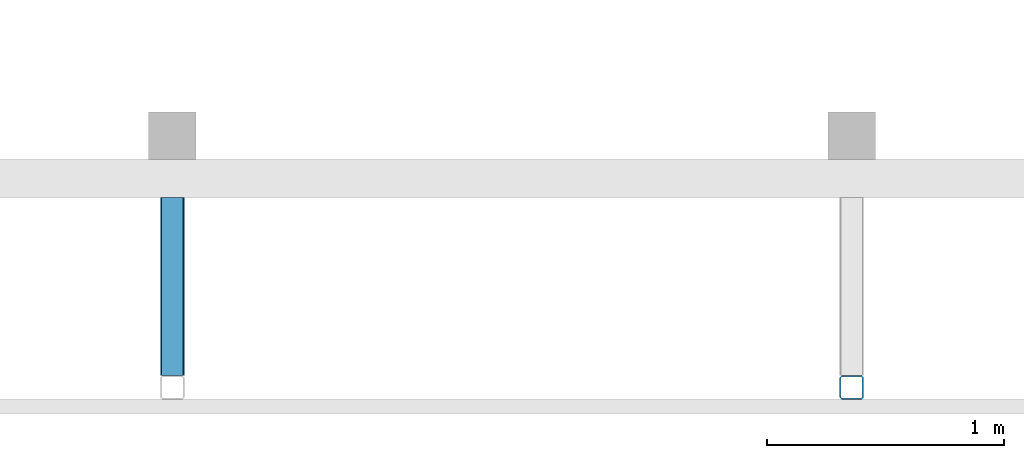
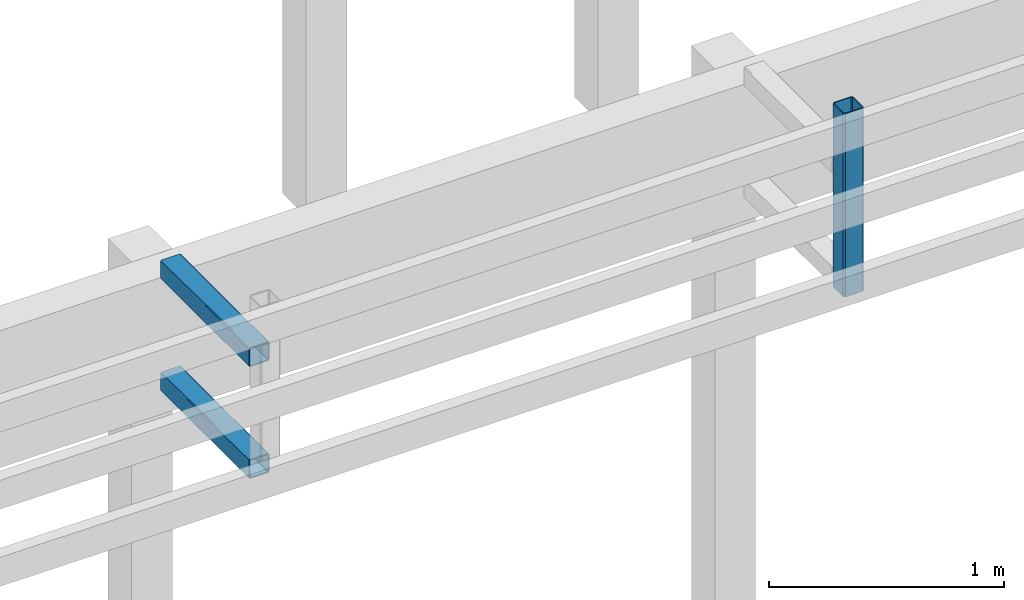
# One storey, part 24 of 42: 3 members.
"""IFC4 building model written with IfcOpenShell, lengths in metres."""

from ifc_helpers import new_model, entity, si_unit, converted_unit, derived_unit, frame, origin, place, context, subcontext, project, spatial, faceted_brep, material, element, save


model = new_model("IFC4")

# Units and contexts
model_context = context("Model", 3, precision=1e-05, world=origin())
plan_context = context("Plan", 2, precision=1e-05, world=origin())
body_context = subcontext(model_context, "Body", "Model", "MODEL_VIEW")
ifc_project = project(units=[si_unit("LENGTHUNIT", "METRE"), si_unit("AREAUNIT", "SQUARE_METRE"), si_unit("VOLUMEUNIT", "CUBIC_METRE"), si_unit("MASSUNIT", "GRAM", prefix="KILO"), converted_unit("PLANEANGLEUNIT", "DEGREE", entity("IfcPlaneAngleMeasure", 0.0174532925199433), si_unit("PLANEANGLEUNIT", "RADIAN"), dimensions=[0, 0, 0, 0, 0, 0, 0]), derived_unit("THERMALTRANSMITTANCEUNIT", [(si_unit("POWERUNIT", "WATT"), 1), (si_unit("THERMODYNAMICTEMPERATUREUNIT", "KELVIN"), -1), (si_unit("LENGTHUNIT", "METRE"), -2)]), derived_unit("VOLUMETRICFLOWRATEUNIT", [(si_unit("LENGTHUNIT", "METRE"), 3), (converted_unit("TIMEUNIT", "hour", entity("IfcTimeMeasure", 3600.0), si_unit("TIMEUNIT", "SECOND"), dimensions=[0, 0, 1, 0, 0, 0, 0]), -1), (si_unit("LENGTHUNIT", "METRE"), -1)])], contexts=[model_context, plan_context])

# Site, building, storey
site_placement = place(None, origin())
site = spatial("IfcSite", under=ifc_project, at=site_placement, Name="Site", CompositionType="ELEMENT")
building_placement = place(site_placement, origin())
building = spatial("IfcBuilding", under=site, at=building_placement, Name="Admin", CompositionType="ELEMENT")
storey_placement = place(building_placement, frame((0.0, 0.0, 6.61)))
storey = spatial("IfcBuildingStorey", under=building, at=storey_placement, Name="02-Etage2", CompositionType="ELEMENT", Elevation=6.61)

# Members
ifc_material_1 = material(Name="S235")
member_1_placement = place(storey_placement, frame((49.6398010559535, 11.0194493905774, 2.28)))
element("IfcMember", 1, at=member_1_placement, inside=storey, material=ifc_material_1, Name="Bandeau R+2", context=body_context, shape_type="Brep", body=[
    faceted_brep([(0.01, 0.095, 0.0), (0.01, 0.095, 0.95), (0.09, 0.095, 0.95), (0.09, 0.095, 0.0), (0.005, 0.09, 0.0), (0.005, 0.09, 0.95), (0.005, 0.01, 0.0), (0.005, 0.01, 0.95), (0.01, 0.005, 0.0), (0.01, 0.005, 0.95), (0.09, 0.005, 0.0), (0.09, 0.005, 0.95), (0.095, 0.01, 0.0), (0.095, 0.01, 0.95), (0.095, 0.09, 0.0), (0.095, 0.09, 0.95), (0.1, 0.0925, 0.0), (0.1, 0.0925, 0.95), (0.0925, 0.1, 0.95), (0.0925, 0.1, 0.0), (0.1, 0.0075, 0.0), (0.1, 0.0075, 0.95), (0.0925, 0.0, 0.0), (0.0925, 0.0, 0.95), (0.0075, 0.0, 0.0), (0.0075, 0.0, 0.95), (0.0, 0.0075, 0.0), (0.0, 0.0075, 0.95), (0.0, 0.0925, 0.0), (0.0, 0.0925, 0.95), (0.0075, 0.1, 0.0), (0.0075, 0.1, 0.95)], [[[0, 1, 2, 3]], [[4, 5, 1, 0]], [[6, 7, 5, 4]], [[8, 9, 7, 6]], [[10, 11, 9, 8]], [[12, 13, 11, 10]], [[14, 15, 13, 12]], [[3, 2, 15, 14]], [[16, 17, 18, 19]], [[20, 21, 17, 16]], [[22, 23, 21, 20]], [[24, 25, 23, 22]], [[26, 27, 25, 24]], [[28, 29, 27, 26]], [[30, 31, 29, 28]], [[19, 18, 31, 30]], [[18, 17, 21, 23, 25, 27, 29, 31], [2, 1, 5, 7, 9, 11, 13, 15]], [[19, 30, 28, 26, 24, 22, 20, 16], [3, 14, 12, 10, 8, 6, 4, 0]]], orient=[[False], [False], [False], [False], [False], [False], [False], [False], [False], [False], [False], [False], [False], [False], [False], [False], [False, False], [False, False]]),
])
ifc_material_2 = material(Name="S235")
member_2_placement = place(storey_placement, frame((46.7798010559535, 11.1194493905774, 2.86)))
element("IfcMember", 2, at=member_2_placement, inside=storey, material=ifc_material_2, Name="Bandeau R+2", context=body_context, shape_type="Brep", body=[
    faceted_brep([(0.0950000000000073, 0.0, 0.09), (0.0950000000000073, 0.0, 0.01), (0.0950000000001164, 0.74999999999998, 0.01), (0.0950000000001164, 0.74999999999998, 0.09), (0.0949240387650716, 0.0, 0.0908682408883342), (0.0949240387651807, 0.74999999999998, 0.0908682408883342), (0.0946984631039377, 0.0, 0.0917101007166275), (0.0946984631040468, 0.74999999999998, 0.0917101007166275), (0.0943301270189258, 0.0, 0.0925), (0.094330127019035, 0.74999999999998, 0.0925), (0.0938302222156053, 0.0, 0.0932139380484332), (0.0938302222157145, 0.74999999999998, 0.0932139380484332), (0.0932139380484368, 1.81898940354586e-15, 0.0938302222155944), (0.093213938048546, 0.749999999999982, 0.0938302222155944), (0.0925000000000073, 1.81898940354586e-15, 0.0943301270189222), (0.0925000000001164, 0.749999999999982, 0.0943301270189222), (0.0917101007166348, 1.81898940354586e-15, 0.0946984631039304), (0.0917101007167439, 0.749999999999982, 0.0946984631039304), (0.0908682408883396, 1.81898940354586e-15, 0.0949240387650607), (0.0908682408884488, 0.749999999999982, 0.0949240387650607), (0.0900000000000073, 1.81898940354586e-15, 0.095), (0.0900000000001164, 0.749999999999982, 0.095), (0.0100000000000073, 1.2732925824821e-14, 0.095), (0.0100000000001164, 0.749999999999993, 0.095), (0.00913175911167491, 1.2732925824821e-14, 0.0949240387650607), (0.00913175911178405, 0.749999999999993, 0.0949240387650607), (0.00828989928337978, 1.2732925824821e-14, 0.0946984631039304), (0.00828989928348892, 0.749999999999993, 0.0946984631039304), (0.00750000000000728, 1.2732925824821e-14, 0.0943301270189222), (0.00750000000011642, 0.749999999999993, 0.0943301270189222), (0.00678606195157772, 1.2732925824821e-14, 0.0938302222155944), (0.00678606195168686, 0.749999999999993, 0.0938302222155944), (0.00616977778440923, 1.45519152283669e-14, 0.0932139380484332), (0.00616977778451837, 0.749999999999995, 0.0932139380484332), (0.0056698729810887, 1.45519152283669e-14, 0.0925), (0.00566987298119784, 0.749999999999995, 0.0925), (0.00530153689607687, 1.45519152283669e-14, 0.0917101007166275), (0.00530153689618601, 0.749999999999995, 0.0917101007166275), (0.00507596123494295, 1.45519152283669e-14, 0.0908682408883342), (0.00507596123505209, 0.749999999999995, 0.0908682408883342), (0.00500000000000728, 1.45519152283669e-14, 0.09), (0.00500000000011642, 0.749999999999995, 0.09), (0.00500000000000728, 1.45519152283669e-14, 0.01), (0.00500000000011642, 0.749999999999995, 0.01), (0.00507596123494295, 1.45519152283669e-14, 0.00913175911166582), (0.00507596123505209, 0.749999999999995, 0.00913175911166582), (0.00530153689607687, 1.45519152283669e-14, 0.00828989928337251), (0.00530153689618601, 0.749999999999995, 0.00828989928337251), (0.0056698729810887, 1.45519152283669e-14, 0.0075), (0.00566987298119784, 0.749999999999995, 0.0075), (0.00616977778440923, 1.45519152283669e-14, 0.00678606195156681), (0.00616977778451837, 0.749999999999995, 0.00678606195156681), (0.00678606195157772, 1.2732925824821e-14, 0.0061697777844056), (0.00678606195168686, 0.749999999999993, 0.0061697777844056), (0.00750000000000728, 1.2732925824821e-14, 0.00566987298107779), (0.00750000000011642, 0.749999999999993, 0.00566987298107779), (0.00828989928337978, 1.2732925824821e-14, 0.00530153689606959), (0.00828989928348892, 0.749999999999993, 0.00530153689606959), (0.00913175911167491, 1.2732925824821e-14, 0.00507596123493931), (0.00913175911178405, 0.749999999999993, 0.00507596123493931), (0.0100000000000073, 1.2732925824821e-14, 0.005), (0.0100000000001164, 0.749999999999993, 0.005), (0.0900000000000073, 1.81898940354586e-15, 0.005), (0.0900000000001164, 0.749999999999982, 0.005), (0.0908682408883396, 1.81898940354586e-15, 0.00507596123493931), (0.0908682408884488, 0.749999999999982, 0.00507596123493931), (0.0917101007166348, 1.81898940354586e-15, 0.00530153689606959), (0.0917101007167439, 0.749999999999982, 0.00530153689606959), (0.0925000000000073, 1.81898940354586e-15, 0.00566987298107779), (0.0925000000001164, 0.749999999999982, 0.00566987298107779), (0.0932139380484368, 1.81898940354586e-15, 0.0061697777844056), (0.093213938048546, 0.749999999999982, 0.0061697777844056), (0.0938302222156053, 0.0, 0.00678606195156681), (0.0938302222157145, 0.74999999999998, 0.00678606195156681), (0.0943301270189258, 0.0, 0.0075), (0.094330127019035, 0.74999999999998, 0.0075), (0.0946984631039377, 0.0, 0.00828989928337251), (0.0946984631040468, 0.74999999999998, 0.00828989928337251), (0.0949240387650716, 0.0, 0.00913175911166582), (0.0949240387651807, 0.74999999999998, 0.00913175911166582), (0.00750000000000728, 1.2732925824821e-14, 0.1), (0.00619763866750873, 1.45519152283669e-14, 0.099886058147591), (0.00619763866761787, 0.749999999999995, 0.099886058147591), (0.00750000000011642, 0.749999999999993, 0.1), (0.0925000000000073, 1.81898940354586e-15, 0.1), (0.0925000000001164, 0.749999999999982, 0.1), (0.0938023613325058, 0.0, 0.099886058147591), (0.093802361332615, 0.74999999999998, 0.099886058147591), (0.0950651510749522, 0.0, 0.0995476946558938), (0.0950651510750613, 0.74999999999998, 0.0995476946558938), (0.0962500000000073, 0.0, 0.0989951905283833), (0.0962500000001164, 0.74999999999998, 0.0989951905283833), (0.0973209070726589, 0.0, 0.0982453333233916), (0.097320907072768, 0.74999999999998, 0.0982453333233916), (0.0982453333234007, 0.0, 0.0973209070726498), (0.0982453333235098, 0.74999999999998, 0.0973209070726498), (0.0989951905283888, 0.0, 0.09625), (0.0989951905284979, 0.74999999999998, 0.09625), (0.0995476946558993, 0.0, 0.0950651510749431), (0.0995476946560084, 0.74999999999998, 0.0950651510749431), (0.0998860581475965, 0.0, 0.0938023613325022), (0.0998860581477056, 0.74999999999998, 0.0938023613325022), (0.100000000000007, 0.0, 0.0925), (0.100000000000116, 0.74999999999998, 0.0925), (0.0998860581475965, 0.0, 0.00619763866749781), (0.100000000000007, 0.0, 0.0075), (0.100000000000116, 0.74999999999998, 0.0075), (0.0998860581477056, 0.74999999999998, 0.00619763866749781), (0.0995476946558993, 0.0, 0.00493484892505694), (0.0995476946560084, 0.74999999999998, 0.00493484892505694), (0.0989951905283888, 0.0, 0.00375), (0.0989951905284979, 0.74999999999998, 0.00375), (0.0982453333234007, 0.0, 0.00267909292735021), (0.0982453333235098, 0.74999999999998, 0.00267909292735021), (0.0973209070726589, 0.0, 0.00175466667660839), (0.097320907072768, 0.74999999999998, 0.00175466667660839), (0.0962500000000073, 0.0, 0.00100480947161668), (0.0962500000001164, 0.74999999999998, 0.00100480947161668), (0.0950651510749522, 0.0, 0.000452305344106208), (0.0950651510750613, 0.74999999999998, 0.000452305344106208), (0.0938023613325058, 0.0, 0.000113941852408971), (0.093802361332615, 0.74999999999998, 0.000113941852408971), (0.0925000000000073, 1.81898940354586e-15, 0.0), (0.0925000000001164, 0.749999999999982, 0.0), (0.00750000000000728, 1.2732925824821e-14, 0.0), (0.00750000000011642, 0.749999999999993, 0.0), (0.00619763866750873, 1.45519152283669e-14, 0.000113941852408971), (0.00619763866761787, 0.749999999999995, 0.000113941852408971), (0.0049348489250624, 1.45519152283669e-14, 0.000452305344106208), (0.00493484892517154, 0.749999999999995, 0.000452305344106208), (0.00375000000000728, 1.45519152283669e-14, 0.00100480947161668), (0.00375000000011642, 0.749999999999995, 0.00100480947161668), (0.00267909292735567, 1.45519152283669e-14, 0.00175466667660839), (0.00267909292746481, 0.749999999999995, 0.00175466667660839), (0.00175466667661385, 1.45519152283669e-14, 0.00267909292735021), (0.00175466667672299, 0.749999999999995, 0.00267909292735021), (0.00100480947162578, 1.45519152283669e-14, 0.00375), (0.00100480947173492, 0.749999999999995, 0.00375), (0.000452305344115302, 1.45519152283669e-14, 0.00493484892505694), (0.000452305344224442, 0.749999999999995, 0.00493484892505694), (0.000113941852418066, 1.45519152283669e-14, 0.00619763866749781), (0.000113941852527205, 0.749999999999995, 0.00619763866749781), (7.27595761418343e-15, 0.0, 0.0075), (1.16415321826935e-13, 0.749999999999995, 0.0075), (0.000113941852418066, 1.45519152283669e-14, 0.0938023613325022), (0.0, 0.0, 0.0925), (1.16415321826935e-13, 0.749999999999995, 0.0925), (0.000113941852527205, 0.749999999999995, 0.0938023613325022), (0.000452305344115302, 1.45519152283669e-14, 0.0950651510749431), (0.000452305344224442, 0.749999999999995, 0.0950651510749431), (0.00100480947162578, 1.45519152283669e-14, 0.09625), (0.00100480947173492, 0.749999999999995, 0.09625), (0.00175466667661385, 1.45519152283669e-14, 0.0973209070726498), (0.00175466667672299, 0.749999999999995, 0.0973209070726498), (0.00267909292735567, 1.45519152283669e-14, 0.0982453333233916), (0.00267909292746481, 0.749999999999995, 0.0982453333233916), (0.00375000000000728, 1.45519152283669e-14, 0.0989951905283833), (0.00375000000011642, 0.749999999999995, 0.0989951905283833), (0.0049348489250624, 1.45519152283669e-14, 0.0995476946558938), (0.00493484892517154, 0.749999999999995, 0.0995476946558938)], [[[0, 1, 2, 3]], [[4, 0, 3, 5]], [[6, 4, 5, 7]], [[8, 6, 7, 9]], [[10, 8, 9, 11]], [[12, 10, 11, 13]], [[14, 12, 13, 15]], [[16, 14, 15, 17]], [[18, 16, 17, 19]], [[20, 18, 19, 21]], [[22, 20, 21, 23]], [[24, 22, 23, 25]], [[26, 24, 25, 27]], [[28, 26, 27, 29]], [[30, 28, 29, 31]], [[32, 30, 31, 33]], [[34, 32, 33, 35]], [[36, 34, 35, 37]], [[38, 36, 37, 39]], [[40, 38, 39, 41]], [[42, 40, 41, 43]], [[44, 42, 43, 45]], [[46, 44, 45, 47]], [[48, 46, 47, 49]], [[50, 48, 49, 51]], [[52, 50, 51, 53]], [[54, 52, 53, 55]], [[56, 54, 55, 57]], [[58, 56, 57, 59]], [[60, 58, 59, 61]], [[62, 60, 61, 63]], [[64, 62, 63, 65]], [[66, 64, 65, 67]], [[68, 66, 67, 69]], [[70, 68, 69, 71]], [[72, 70, 71, 73]], [[74, 72, 73, 75]], [[76, 74, 75, 77]], [[78, 76, 77, 79]], [[1, 78, 79, 2]], [[80, 81, 82, 83]], [[84, 80, 83, 85]], [[86, 84, 85, 87]], [[88, 86, 87, 89]], [[90, 88, 89, 91]], [[92, 90, 91, 93]], [[94, 92, 93, 95]], [[96, 94, 95, 97]], [[98, 96, 97, 99]], [[100, 98, 99, 101]], [[102, 100, 101, 103]], [[104, 105, 106, 107]], [[108, 104, 107, 109]], [[110, 108, 109, 111]], [[112, 110, 111, 113]], [[114, 112, 113, 115]], [[116, 114, 115, 117]], [[118, 116, 117, 119]], [[120, 118, 119, 121]], [[122, 120, 121, 123]], [[124, 122, 123, 125]], [[126, 124, 125, 127]], [[128, 126, 127, 129]], [[130, 128, 129, 131]], [[132, 130, 131, 133]], [[134, 132, 133, 135]], [[136, 134, 135, 137]], [[138, 136, 137, 139]], [[140, 138, 139, 141]], [[142, 140, 141, 143]], [[144, 145, 146, 147]], [[148, 144, 147, 149]], [[150, 148, 149, 151]], [[152, 150, 151, 153]], [[154, 152, 153, 155]], [[156, 154, 155, 157]], [[158, 156, 157, 159]], [[81, 158, 159, 82]], [[146, 143, 141, 139, 137, 135, 133, 131, 129, 127, 125, 123, 121, 119, 117, 115, 113, 111, 109, 107, 106, 103, 101, 99, 97, 95, 93, 91, 89, 87, 85, 83, 82, 159, 157, 155, 153, 151, 149, 147], [2, 79, 77, 75, 73, 71, 69, 67, 65, 63, 61, 59, 57, 55, 53, 51, 49, 47, 45, 43, 41, 39, 37, 35, 33, 31, 29, 27, 25, 23, 21, 19, 17, 15, 13, 11, 9, 7, 5, 3]], [[103, 106, 105, 102]], [[102, 105, 104, 108, 110, 112, 114, 116, 118, 120, 122, 124, 126, 128, 130, 132, 134, 136, 138, 140, 142, 145, 144, 148, 150, 152, 154, 156, 158, 81, 80, 84, 86, 88, 90, 92, 94, 96, 98, 100], [1, 0, 4, 6, 8, 10, 12, 14, 16, 18, 20, 22, 24, 26, 28, 30, 32, 34, 36, 38, 40, 42, 44, 46, 48, 50, 52, 54, 56, 58, 60, 62, 64, 66, 68, 70, 72, 74, 76, 78]], [[145, 142, 143, 146]]], orient=[[False], [False], [False], [False], [False], [False], [False], [False], [False], [False], [False], [False], [False], [False], [False], [False], [False], [False], [False], [False], [False], [False], [False], [False], [False], [False], [False], [False], [False], [False], [False], [False], [False], [False], [False], [False], [False], [False], [False], [False], [False], [False], [False], [False], [False], [False], [False], [False], [False], [False], [False], [False], [False], [False], [False], [False], [False], [False], [False], [False], [False], [False], [False], [False], [False], [False], [False], [False], [False], [False], [False], [False], [False], [False], [False], [False], [False], [False], [False, False], [False], [False, False], [False]]),
])
ifc_material_3 = material(Name="S235")
member_3_placement = place(storey_placement, frame((46.7798010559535, 11.1194493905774, 2.28)))
element("IfcMember", 3, at=member_3_placement, inside=storey, material=ifc_material_3, Name="Bandeau R+2", context=body_context, shape_type="Brep", body=[
    faceted_brep([(0.0950000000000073, 0.0, 0.09), (0.0950000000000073, 0.0, 0.01), (0.0950000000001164, 0.749999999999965, 0.01), (0.0950000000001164, 0.749999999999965, 0.09), (0.0949240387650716, 0.0, 0.0908682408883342), (0.0949240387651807, 0.749999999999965, 0.0908682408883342), (0.0946984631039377, 0.0, 0.0917101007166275), (0.0946984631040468, 0.749999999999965, 0.0917101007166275), (0.0943301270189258, 0.0, 0.0925), (0.094330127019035, 0.749999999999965, 0.0925), (0.0938302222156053, 0.0, 0.0932139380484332), (0.0938302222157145, 0.749999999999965, 0.0932139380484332), (0.0932139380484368, 1.81898940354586e-15, 0.0938302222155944), (0.093213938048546, 0.749999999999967, 0.0938302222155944), (0.0925000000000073, 1.81898940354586e-15, 0.0943301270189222), (0.0925000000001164, 0.749999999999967, 0.0943301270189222), (0.0917101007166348, 1.81898940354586e-15, 0.0946984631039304), (0.0917101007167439, 0.749999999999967, 0.0946984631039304), (0.0908682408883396, 1.81898940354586e-15, 0.0949240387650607), (0.0908682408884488, 0.749999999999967, 0.0949240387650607), (0.0900000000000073, 1.81898940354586e-15, 0.095), (0.0900000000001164, 0.749999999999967, 0.095), (0.0100000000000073, 1.2732925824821e-14, 0.095), (0.0100000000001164, 0.749999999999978, 0.095), (0.00913175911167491, 1.2732925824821e-14, 0.0949240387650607), (0.00913175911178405, 0.749999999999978, 0.0949240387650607), (0.00828989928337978, 1.2732925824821e-14, 0.0946984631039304), (0.00828989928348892, 0.749999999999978, 0.0946984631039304), (0.00750000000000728, 1.2732925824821e-14, 0.0943301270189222), (0.00750000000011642, 0.749999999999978, 0.0943301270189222), (0.00678606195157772, 1.2732925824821e-14, 0.0938302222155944), (0.00678606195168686, 0.749999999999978, 0.0938302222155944), (0.00616977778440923, 1.45519152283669e-14, 0.0932139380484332), (0.00616977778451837, 0.74999999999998, 0.0932139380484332), (0.0056698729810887, 1.45519152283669e-14, 0.0925), (0.00566987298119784, 0.74999999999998, 0.0925), (0.00530153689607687, 1.45519152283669e-14, 0.0917101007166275), (0.00530153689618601, 0.74999999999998, 0.0917101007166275), (0.00507596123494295, 1.45519152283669e-14, 0.0908682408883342), (0.00507596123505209, 0.74999999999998, 0.0908682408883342), (0.00500000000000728, 1.45519152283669e-14, 0.09), (0.00500000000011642, 0.74999999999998, 0.09), (0.00500000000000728, 1.45519152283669e-14, 0.01), (0.00500000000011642, 0.74999999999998, 0.01), (0.00507596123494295, 1.45519152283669e-14, 0.00913175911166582), (0.00507596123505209, 0.74999999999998, 0.00913175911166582), (0.00530153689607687, 1.45519152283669e-14, 0.00828989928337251), (0.00530153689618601, 0.74999999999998, 0.00828989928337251), (0.0056698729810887, 1.45519152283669e-14, 0.0075), (0.00566987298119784, 0.74999999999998, 0.0075), (0.00616977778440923, 1.45519152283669e-14, 0.00678606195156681), (0.00616977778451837, 0.74999999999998, 0.00678606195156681), (0.00678606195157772, 1.2732925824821e-14, 0.0061697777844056), (0.00678606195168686, 0.749999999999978, 0.0061697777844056), (0.00750000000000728, 1.2732925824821e-14, 0.00566987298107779), (0.00750000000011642, 0.749999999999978, 0.00566987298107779), (0.00828989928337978, 1.2732925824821e-14, 0.00530153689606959), (0.00828989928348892, 0.749999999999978, 0.00530153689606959), (0.00913175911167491, 1.2732925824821e-14, 0.00507596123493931), (0.00913175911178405, 0.749999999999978, 0.00507596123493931), (0.0100000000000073, 1.2732925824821e-14, 0.005), (0.0100000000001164, 0.749999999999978, 0.005), (0.0900000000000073, 1.81898940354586e-15, 0.005), (0.0900000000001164, 0.749999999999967, 0.005), (0.0908682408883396, 1.81898940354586e-15, 0.00507596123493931), (0.0908682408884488, 0.749999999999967, 0.00507596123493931), (0.0917101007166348, 1.81898940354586e-15, 0.00530153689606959), (0.0917101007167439, 0.749999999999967, 0.00530153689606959), (0.0925000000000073, 1.81898940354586e-15, 0.00566987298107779), (0.0925000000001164, 0.749999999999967, 0.00566987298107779), (0.0932139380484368, 1.81898940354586e-15, 0.0061697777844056), (0.093213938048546, 0.749999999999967, 0.0061697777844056), (0.0938302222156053, 0.0, 0.00678606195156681), (0.0938302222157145, 0.749999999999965, 0.00678606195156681), (0.0943301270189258, 0.0, 0.0075), (0.094330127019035, 0.749999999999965, 0.0075), (0.0946984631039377, 0.0, 0.00828989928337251), (0.0946984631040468, 0.749999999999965, 0.00828989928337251), (0.0949240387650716, 0.0, 0.00913175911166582), (0.0949240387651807, 0.749999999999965, 0.00913175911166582), (0.00750000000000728, 1.2732925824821e-14, 0.1), (0.00619763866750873, 1.45519152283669e-14, 0.099886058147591), (0.00619763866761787, 0.74999999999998, 0.099886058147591), (0.00750000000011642, 0.749999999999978, 0.1), (0.0925000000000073, 1.81898940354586e-15, 0.1), (0.0925000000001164, 0.749999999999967, 0.1), (0.0938023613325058, 0.0, 0.099886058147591), (0.093802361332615, 0.749999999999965, 0.099886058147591), (0.0950651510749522, 0.0, 0.0995476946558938), (0.0950651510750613, 0.749999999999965, 0.0995476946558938), (0.0962500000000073, 0.0, 0.0989951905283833), (0.0962500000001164, 0.749999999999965, 0.0989951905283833), (0.0973209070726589, 0.0, 0.0982453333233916), (0.097320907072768, 0.749999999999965, 0.0982453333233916), (0.0982453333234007, 0.0, 0.0973209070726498), (0.0982453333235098, 0.749999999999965, 0.0973209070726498), (0.0989951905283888, 0.0, 0.09625), (0.0989951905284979, 0.749999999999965, 0.09625), (0.0995476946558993, 0.0, 0.0950651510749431), (0.0995476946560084, 0.749999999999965, 0.0950651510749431), (0.0998860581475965, 0.0, 0.0938023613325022), (0.0998860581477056, 0.749999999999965, 0.0938023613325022), (0.100000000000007, 0.0, 0.0925), (0.100000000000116, 0.749999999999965, 0.0925), (0.0998860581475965, 0.0, 0.00619763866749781), (0.100000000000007, 0.0, 0.0075), (0.100000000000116, 0.749999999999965, 0.0075), (0.0998860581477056, 0.749999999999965, 0.00619763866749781), (0.0995476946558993, 0.0, 0.00493484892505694), (0.0995476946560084, 0.749999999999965, 0.00493484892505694), (0.0989951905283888, 0.0, 0.00375), (0.0989951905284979, 0.749999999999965, 0.00375), (0.0982453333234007, 0.0, 0.00267909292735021), (0.0982453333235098, 0.749999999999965, 0.00267909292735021), (0.0973209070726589, 0.0, 0.00175466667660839), (0.097320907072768, 0.749999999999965, 0.00175466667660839), (0.0962500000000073, 0.0, 0.00100480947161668), (0.0962500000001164, 0.749999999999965, 0.00100480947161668), (0.0950651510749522, 0.0, 0.000452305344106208), (0.0950651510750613, 0.749999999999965, 0.000452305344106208), (0.0938023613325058, 0.0, 0.000113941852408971), (0.093802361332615, 0.749999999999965, 0.000113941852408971), (0.0925000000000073, 1.81898940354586e-15, 0.0), (0.0925000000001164, 0.749999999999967, 0.0), (0.00750000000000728, 1.2732925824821e-14, 0.0), (0.00750000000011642, 0.749999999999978, 0.0), (0.00619763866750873, 1.45519152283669e-14, 0.000113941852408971), (0.00619763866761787, 0.74999999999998, 0.000113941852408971), (0.0049348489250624, 1.45519152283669e-14, 0.000452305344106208), (0.00493484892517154, 0.74999999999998, 0.000452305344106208), (0.00375000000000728, 1.45519152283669e-14, 0.00100480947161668), (0.00375000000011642, 0.74999999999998, 0.00100480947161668), (0.00267909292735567, 1.45519152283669e-14, 0.00175466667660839), (0.00267909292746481, 0.74999999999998, 0.00175466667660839), (0.00175466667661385, 1.45519152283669e-14, 0.00267909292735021), (0.00175466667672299, 0.74999999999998, 0.00267909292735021), (0.00100480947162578, 1.45519152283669e-14, 0.00375), (0.00100480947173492, 0.74999999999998, 0.00375), (0.000452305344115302, 1.45519152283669e-14, 0.00493484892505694), (0.000452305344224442, 0.74999999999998, 0.00493484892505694), (0.000113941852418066, 1.45519152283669e-14, 0.00619763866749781), (0.000113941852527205, 0.74999999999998, 0.00619763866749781), (7.27595761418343e-15, 0.0, 0.0075), (1.16415321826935e-13, 0.74999999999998, 0.0075), (0.000113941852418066, 1.45519152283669e-14, 0.0938023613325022), (0.0, 0.0, 0.0925), (1.16415321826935e-13, 0.74999999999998, 0.0925), (0.000113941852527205, 0.74999999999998, 0.0938023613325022), (0.000452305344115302, 1.45519152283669e-14, 0.0950651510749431), (0.000452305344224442, 0.74999999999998, 0.0950651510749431), (0.00100480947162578, 1.45519152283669e-14, 0.09625), (0.00100480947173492, 0.74999999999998, 0.09625), (0.00175466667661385, 1.45519152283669e-14, 0.0973209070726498), (0.00175466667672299, 0.74999999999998, 0.0973209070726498), (0.00267909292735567, 1.45519152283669e-14, 0.0982453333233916), (0.00267909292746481, 0.74999999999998, 0.0982453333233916), (0.00375000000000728, 1.45519152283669e-14, 0.0989951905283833), (0.00375000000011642, 0.74999999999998, 0.0989951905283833), (0.0049348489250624, 1.45519152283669e-14, 0.0995476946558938), (0.00493484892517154, 0.74999999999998, 0.0995476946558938)], [[[0, 1, 2, 3]], [[4, 0, 3, 5]], [[6, 4, 5, 7]], [[8, 6, 7, 9]], [[10, 8, 9, 11]], [[12, 10, 11, 13]], [[14, 12, 13, 15]], [[16, 14, 15, 17]], [[18, 16, 17, 19]], [[20, 18, 19, 21]], [[22, 20, 21, 23]], [[24, 22, 23, 25]], [[26, 24, 25, 27]], [[28, 26, 27, 29]], [[30, 28, 29, 31]], [[32, 30, 31, 33]], [[34, 32, 33, 35]], [[36, 34, 35, 37]], [[38, 36, 37, 39]], [[40, 38, 39, 41]], [[42, 40, 41, 43]], [[44, 42, 43, 45]], [[46, 44, 45, 47]], [[48, 46, 47, 49]], [[50, 48, 49, 51]], [[52, 50, 51, 53]], [[54, 52, 53, 55]], [[56, 54, 55, 57]], [[58, 56, 57, 59]], [[60, 58, 59, 61]], [[62, 60, 61, 63]], [[64, 62, 63, 65]], [[66, 64, 65, 67]], [[68, 66, 67, 69]], [[70, 68, 69, 71]], [[72, 70, 71, 73]], [[74, 72, 73, 75]], [[76, 74, 75, 77]], [[78, 76, 77, 79]], [[1, 78, 79, 2]], [[80, 81, 82, 83]], [[84, 80, 83, 85]], [[86, 84, 85, 87]], [[88, 86, 87, 89]], [[90, 88, 89, 91]], [[92, 90, 91, 93]], [[94, 92, 93, 95]], [[96, 94, 95, 97]], [[98, 96, 97, 99]], [[100, 98, 99, 101]], [[102, 100, 101, 103]], [[104, 105, 106, 107]], [[108, 104, 107, 109]], [[110, 108, 109, 111]], [[112, 110, 111, 113]], [[114, 112, 113, 115]], [[116, 114, 115, 117]], [[118, 116, 117, 119]], [[120, 118, 119, 121]], [[122, 120, 121, 123]], [[124, 122, 123, 125]], [[126, 124, 125, 127]], [[128, 126, 127, 129]], [[130, 128, 129, 131]], [[132, 130, 131, 133]], [[134, 132, 133, 135]], [[136, 134, 135, 137]], [[138, 136, 137, 139]], [[140, 138, 139, 141]], [[142, 140, 141, 143]], [[144, 145, 146, 147]], [[148, 144, 147, 149]], [[150, 148, 149, 151]], [[152, 150, 151, 153]], [[154, 152, 153, 155]], [[156, 154, 155, 157]], [[158, 156, 157, 159]], [[81, 158, 159, 82]], [[146, 143, 141, 139, 137, 135, 133, 131, 129, 127, 125, 123, 121, 119, 117, 115, 113, 111, 109, 107, 106, 103, 101, 99, 97, 95, 93, 91, 89, 87, 85, 83, 82, 159, 157, 155, 153, 151, 149, 147], [2, 79, 77, 75, 73, 71, 69, 67, 65, 63, 61, 59, 57, 55, 53, 51, 49, 47, 45, 43, 41, 39, 37, 35, 33, 31, 29, 27, 25, 23, 21, 19, 17, 15, 13, 11, 9, 7, 5, 3]], [[103, 106, 105, 102]], [[102, 105, 104, 108, 110, 112, 114, 116, 118, 120, 122, 124, 126, 128, 130, 132, 134, 136, 138, 140, 142, 145, 144, 148, 150, 152, 154, 156, 158, 81, 80, 84, 86, 88, 90, 92, 94, 96, 98, 100], [1, 0, 4, 6, 8, 10, 12, 14, 16, 18, 20, 22, 24, 26, 28, 30, 32, 34, 36, 38, 40, 42, 44, 46, 48, 50, 52, 54, 56, 58, 60, 62, 64, 66, 68, 70, 72, 74, 76, 78]], [[145, 142, 143, 146]]], orient=[[False], [False], [False], [False], [False], [False], [False], [False], [False], [False], [False], [False], [False], [False], [False], [False], [False], [False], [False], [False], [False], [False], [False], [False], [False], [False], [False], [False], [False], [False], [False], [False], [False], [False], [False], [False], [False], [False], [False], [False], [False], [False], [False], [False], [False], [False], [False], [False], [False], [False], [False], [False], [False], [False], [False], [False], [False], [False], [False], [False], [False], [False], [False], [False], [False], [False], [False], [False], [False], [False], [False], [False], [False], [False], [False], [False], [False], [False], [False, False], [False], [False, False], [False]]),
])

save(model, "model.ifc")
